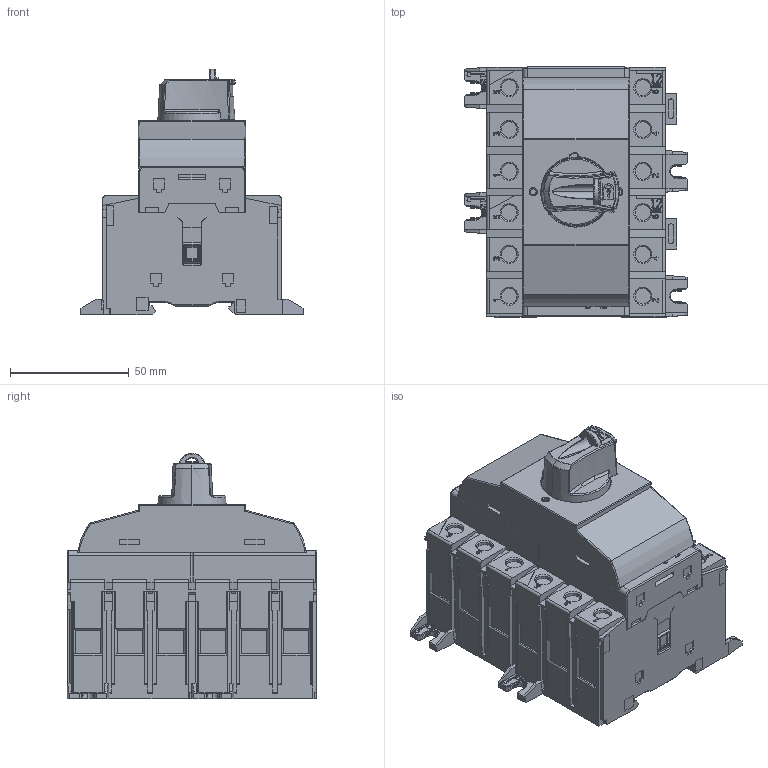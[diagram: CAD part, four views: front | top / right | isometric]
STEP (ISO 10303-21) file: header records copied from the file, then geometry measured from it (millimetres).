
FILE_DESCRIPTION (( 'STEP AP203' ), '1' );
FILE_NAME ('NF2 - 80 HHRIM32.STEP', '2025-08-18T10:29:04', ( '' ), ( '' ), 'SwSTEP 2.0', 'SolidWorks 2023', '' );
FILE_SCHEMA (( 'CONFIG_CONTROL_DESIGN' ));
Products named in the file (1): NF2 - 80  HHRIM32
Bounding box: 94 x 105 x 103.13 mm (x, y, z)
Volume: 502366.3 mm3; surface area: 56347.4 mm2
Topology: 1 solids, 36 shells, 3075 faces, 8535 edges, 5578 vertices
Faces by surface type: plane 2277, cylinder 342, bspline 331, cone 73, torus 40, sphere 12
Entity records: 110087 total; most frequent: CARTESIAN_POINT 33753, ORIENTED_EDGE 17050, DIRECTION 13806, EDGE_CURVE 8525, VECTOR 6824, LINE 6824, VERTEX_POINT 5578, AXIS2_PLACEMENT_3D 3491
